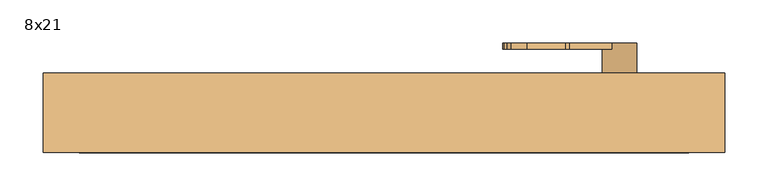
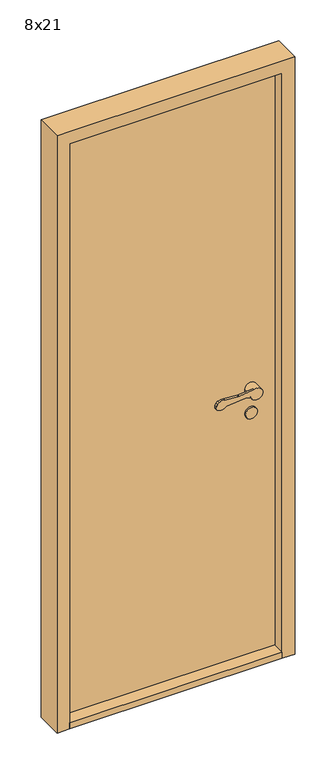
"""IFC4 building model written with IfcOpenShell, lengths in millimetres: door geometry, Innerdør Slett (Diplomat) : 8x21."""

from ifc_helpers import new_model, si_unit, point, frame, frame_2d, origin, origin_with_axes, place, context, project, spatial, polyline, circle_curve, trimmed, segment, composite_curve, outline, extrude, source, transform, mapped, element, save
from ifc_brep_helpers import plane_surface, cylinder_surface, revolved_surface, advanced_brep


def door_8x21_1535dc22(model_context):
    return source(origin(), model_context, "Body", "SolidModel", [
        advanced_brep(
        [(293.9611305, -20.0, 949.1175955), (308.3841161, -20.0, 942.6204086), (346.379633, -20.0, 951.3474568), (317.2687793, -20.0, 969.1517356), (268.6891233, -20.0, 964.26032), (263.6202158, -20.0, 964.1804415), (218.8963175, -20.0, 967.2639242), (200.3175669, -20.0, 964.8810513), (195.505009, -20.0, 959.9624074), (191.8691983, -20.0, 951.8913379), (196.721536, -20.0, 938.7393398), (226.0476109, -20.0, 943.6260011), (288.8520664, -20.0, 949.9496913), (268.6891233, -12.8915284, 964.26032), (317.2687793, -12.8915284, 969.1517356), (306.379633, -12.8915284, 951.3474568), (308.3841161, -12.8915284, 942.6204086), (293.9611305, -12.8915284, 949.1175955), (288.8520664, -12.8915284, 949.9496913), (226.0476109, -12.8915284, 943.6260011), (196.721536, -12.8915284, 938.7393398), (191.8691983, -12.8915284, 951.8913379), (195.505009, -12.8915284, 959.9624074), (200.3175669, -12.8915284, 964.8810513), (218.8963175, -12.8915284, 967.2639242), (263.6202158, -12.8915284, 964.1804415), (346.379633, 15.0, 951.3474568), (306.379633, 15.0, 951.3474568)],
        [
            (0, 1),
            (1, 2, circle_curve(frame((326.379633, -20.0, 951.3474568), z_axis=(0.0, -1.0, 0.0), x_axis=(-1.0, 0.0, 0.0)), 20.0)),
            (2, 3, circle_curve(frame((326.379633, -20.0, 951.3474568), z_axis=(0.0, -1.0, 0.0), x_axis=(-1.0, 0.0, 0.0)), 20.0)),
            (3, 4),
            (4, 5, circle_curve(frame((265.683663, -20.0, 994.1093938), z_axis=(0.0, 1.0, 0.0), x_axis=(-0.9949691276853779, 0.0, -0.10018200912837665)), 30.0)),
            (5, 6),
            (6, 7, circle_curve(frame((213.2326797, -20.0, 937.8033877), z_axis=(0.0, -1.0, 0.0), x_axis=(-0.9949691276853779, 0.0, -0.10018200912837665)), 30.0)),
            (7, 8, circle_curve(frame((204.6226045, -20.0, 955.8551634), z_axis=(0.0, -1.0, 0.0), x_axis=(-0.9949691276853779, 0.0, -0.10018200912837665)), 10.0)),
            (8, 9),
            (9, 10, circle_curve(frame((200.9867937, -20.0, 947.7840939), z_axis=(0.0, -1.0, 0.0), x_axis=(-0.9949691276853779, 0.0, -0.10018200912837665)), 10.0)),
            (10, 11, circle_curve(frame((207.8569644, -20.0, 962.352734), z_axis=(0.0, -1.0, 0.0), x_axis=(-0.9949691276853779, 0.0, -0.10018200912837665)), 26.1072815)),
            (11, 12),
            (12, 0, circle_curve(frame((289.8538865, -20.0, 940.0), z_axis=(0.0, 1.0, 0.0), x_axis=(-0.9949691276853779, 0.0, -0.10018200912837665)), 10.0)),
            (13, 14),
            (14, 15, circle_curve(frame((326.379633, -12.8915284, 951.3474568), z_axis=(0.0, -1.0, 0.0), x_axis=(-1.0, 0.0, 0.0)), 20.0)),
            (15, 16, circle_curve(frame((326.379633, -12.8915284, 951.3474568), z_axis=(0.0, -1.0, 0.0), x_axis=(-1.0, 0.0, 0.0)), 20.0)),
            (16, 17),
            (17, 18, circle_curve(frame((289.8538865, -12.8915284, 940.0), z_axis=(0.0, -1.0, 0.0), x_axis=(-0.9949691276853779, 0.0, -0.10018200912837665)), 10.0)),
            (18, 19),
            (19, 20, circle_curve(frame((207.8569644, -12.8915284, 962.352734), z_axis=(0.0, 1.0, 0.0), x_axis=(-0.9949691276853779, 0.0, -0.10018200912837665)), 26.1072815)),
            (20, 21, circle_curve(frame((200.9867937, -12.8915284, 947.7840939), z_axis=(0.0, 1.0, 0.0), x_axis=(-0.9949691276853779, 0.0, -0.10018200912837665)), 10.0)),
            (21, 22),
            (22, 23, circle_curve(frame((204.6226045, -12.8915284, 955.8551634), z_axis=(0.0, 1.0, 0.0), x_axis=(-0.9949691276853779, 0.0, -0.10018200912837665)), 10.0)),
            (23, 24, circle_curve(frame((213.2326797, -12.8915284, 937.8033877), z_axis=(0.0, 1.0, 0.0), x_axis=(-0.9949691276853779, 0.0, -0.10018200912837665)), 30.0)),
            (24, 25),
            (25, 13, circle_curve(frame((265.683663, -12.8915284, 994.1093938), z_axis=(0.0, -1.0, 0.0), x_axis=(-0.9949691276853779, 0.0, -0.10018200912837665)), 30.0)),
            (3, 14),
            (13, 4),
            (16, 1),
            (0, 17),
            (12, 18),
            (11, 19),
            (10, 20),
            (9, 21),
            (8, 22),
            (7, 23),
            (6, 24),
            (5, 25),
            (26, 27, circle_curve(frame((326.379633, 15.0, 951.3474568), z_axis=(0.0, 1.0, 0.0), x_axis=(-1.0, 0.0, 0.0)), 20.0)),
            (27, 26, circle_curve(frame((326.379633, 15.0, 951.3474568), z_axis=(0.0, 1.0, 0.0), x_axis=(-1.0, 0.0, 0.0)), 20.0)),
            (26, 2),
            (15, 27),
        ],
        [
            plane_surface(frame((317.6960588, -20.0, 969.1947577), z_axis=(0.0, -1.0000000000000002, 0.0), x_axis=(0.9949691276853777, 0.0, 0.10018200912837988))),
            plane_surface(frame((317.6960588, -12.8915284, 969.1947577), z_axis=(0.0, 1.0000000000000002, 0.0), x_axis=(-0.9949691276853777, 0.0, -0.10018200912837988))),
            plane_surface(frame((268.6891233, -20.0, 964.26032), z_axis=(-0.10018200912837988, 0.0, 0.9949691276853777), x_axis=(0.0, 1.0, 0.0))),
            plane_surface(frame((326.9687366, -20.0, 934.2485115), z_axis=(-0.41072439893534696, 0.0, -0.91175954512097), x_axis=(0.0, 1.0, 0.0))),
            revolved_surface(polyline([(279.9041952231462, -12.8915284, 938.9981799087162), (279.9041952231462, -20.0, 938.9981799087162)]), (289.8538865, -12.8915284, 940.0), (0.0, 1.0, 0.0)),
            plane_surface(frame((288.8520664, -20.0, 949.9496913), z_axis=(0.10018200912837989, 0.0, -0.9949691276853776), x_axis=(0.0, 1.0, 0.0))),
            cylinder_surface(frame((207.8569644, -12.8915284, 962.352734), z_axis=(0.0, -1.0, 0.0), x_axis=(-0.9949691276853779, 0.0, -0.10018200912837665)), 26.1072815),
            cylinder_surface(frame((200.9867937, -12.8915284, 947.7840939), z_axis=(0.0, -1.0, 0.0), x_axis=(-0.9949691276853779, 0.0, -0.10018200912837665)), 10.0),
            plane_surface(frame((191.8691983, -20.0, 951.8913379), z_axis=(-0.9117595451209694, 0.0, 0.41072439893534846), x_axis=(0.0, 1.0, 0.0))),
            cylinder_surface(frame((204.6226045, -12.8915284, 955.8551634), z_axis=(0.0, -1.0, 0.0), x_axis=(-0.9949691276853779, 0.0, -0.10018200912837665)), 10.0),
            cylinder_surface(frame((213.2326797, -12.8915284, 937.8033877), z_axis=(0.0, -1.0, 0.0), x_axis=(-0.9949691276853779, 0.0, -0.10018200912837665)), 30.0),
            plane_surface(frame((218.8963175, -20.0, 967.2639242), z_axis=(0.06878157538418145, 0.0, 0.9976317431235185), x_axis=(0.0, 1.0, 0.0))),
            revolved_surface(polyline([(235.8345891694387, -12.8915284, 991.1039335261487), (235.8345891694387, -20.0, 991.1039335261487)]), (265.683663, -12.8915284, 994.1093938), (0.0, 1.0, 0.0)),
            plane_surface(frame((306.379633, 15.0, 951.3474568), z_axis=(0.0, 1.0, 0.0), x_axis=(0.0, 0.0, -1.0))),
            cylinder_surface(frame((326.379633, 15.0, 951.3474568), z_axis=(0.0, -1.0, 0.0), x_axis=(-1.0, 0.0, 0.0)), 20.0),
        ],
        [
            (0, [[1, 2, 3, 4, 5, 6, 7, 8, 9, 10, 11, 12, 13]]),
            (1, [[14, 15, 16, 17, 18, 19, 20, 21, 22, 23, 24, 25, 26]]),
            (2, [[-4, 27, -14, 28]]),
            (3, [[-17, 29, -1, 30]]),
            (4, [[31, -18, -30, -13]]),
            (5, [[32, -19, -31, -12]]),
            (6, [[33, -20, -32, -11]]),
            (7, [[34, -21, -33, -10]]),
            (8, [[35, -22, -34, -9]]),
            (9, [[36, -23, -35, -8]]),
            (10, [[37, -24, -36, -7]]),
            (11, [[38, -25, -37, -6]]),
            (12, [[-28, -26, -38, -5]]),
            (13, [[39, 40]]),
            (14, [[41, -2, -29, -16, 42, -39]]),
            (14, [[-42, -15, -27, -3, -41, -40]]),
        ],
    ),
        extrude(outline(composite_curve([segment(trimmed(circle_curve(frame_2d((866.3474568, 326.379633)), 20.0), [point((866.3474568, 346.379633))], [point((866.3474568, 306.379633))], False, "CARTESIAN"), True, "CONTINUOUS"), segment(trimmed(circle_curve(frame_2d((866.3474568, 326.379633)), 20.0), [point((866.3474568, 306.379633))], [point((866.3474568, 346.379633))], False, "CARTESIAN"), True, "CONTINUOUS")], self_intersect=False)), frame((0.0, 10.0, 0.0), z_axis=(0.0, 1.0, 0.0), x_axis=(0.0, 0.0, 1.0)), (0.0, 0.0, 1.0), 5.0),
        advanced_brep(
        [(293.9611305, 100.0, 949.1175955), (288.8520664, 100.0, 949.9496913), (226.0476109, 100.0, 943.6260011), (196.721536, 100.0, 938.7393398), (191.8691983, 100.0, 951.8913379), (195.505009, 100.0, 959.9624074), (200.3175669, 100.0, 964.8810513), (218.8963175, 100.0, 967.2639242), (263.6202158, 100.0, 964.1804415), (268.6891233, 100.0, 964.26032), (317.2687793, 100.0, 969.1517356), (346.379633, 100.0, 951.3474568), (308.3841161, 100.0, 942.6204086), (268.6891233, 92.8915284, 964.26032), (263.6202158, 92.8915284, 964.1804415), (218.8963175, 92.8915284, 967.2639242), (200.3175669, 92.8915284, 964.8810513), (195.505009, 92.8915284, 959.9624074), (191.8691983, 92.8915284, 951.8913379), (196.721536, 92.8915284, 938.7393398), (226.0476109, 92.8915284, 943.6260011), (288.8520664, 92.8915284, 949.9496913), (293.9611305, 92.8915284, 949.1175955), (308.3841161, 92.8915284, 942.6204086), (306.379633, 92.8915284, 951.3474568), (317.2687793, 92.8915284, 969.1517356), (346.379633, 65.0, 951.3474568), (306.379633, 65.0, 951.3474568)],
        [
            (0, 1, circle_curve(frame((289.8538865, 100.0, 940.0), z_axis=(0.0, -1.0, 0.0), x_axis=(-0.9949691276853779, 0.0, -0.10018200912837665)), 10.0)),
            (1, 2),
            (2, 3, circle_curve(frame((207.8569644, 100.0, 962.352734), z_axis=(0.0, 1.0, 0.0), x_axis=(-0.9949691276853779, 0.0, -0.10018200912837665)), 26.1072815)),
            (3, 4, circle_curve(frame((200.9867937, 100.0, 947.7840939), z_axis=(0.0, 1.0, 0.0), x_axis=(-0.9949691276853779, 0.0, -0.10018200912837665)), 10.0)),
            (4, 5),
            (5, 6, circle_curve(frame((204.6226045, 100.0, 955.8551634), z_axis=(0.0, 1.0, 0.0), x_axis=(-0.9949691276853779, 0.0, -0.10018200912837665)), 10.0)),
            (6, 7, circle_curve(frame((213.2326797, 100.0, 937.8033877), z_axis=(0.0, 1.0, 0.0), x_axis=(-0.9949691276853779, 0.0, -0.10018200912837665)), 30.0)),
            (7, 8),
            (8, 9, circle_curve(frame((265.683663, 100.0, 994.1093938), z_axis=(0.0, -1.0, 0.0), x_axis=(-0.9949691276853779, 0.0, -0.10018200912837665)), 30.0)),
            (9, 10),
            (10, 11, circle_curve(frame((326.379633, 100.0, 951.3474568), z_axis=(0.0, 1.0, 0.0), x_axis=(-1.0, 0.0, 0.0)), 20.0)),
            (11, 12, circle_curve(frame((326.379633, 100.0, 951.3474568), z_axis=(0.0, 1.0, 0.0), x_axis=(-1.0, 0.0, 0.0)), 20.0)),
            (12, 0),
            (13, 14, circle_curve(frame((265.683663, 92.8915284, 994.1093938), z_axis=(0.0, 1.0, 0.0), x_axis=(-0.9949691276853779, 0.0, -0.10018200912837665)), 30.0)),
            (14, 15),
            (15, 16, circle_curve(frame((213.2326797, 92.8915284, 937.8033877), z_axis=(0.0, -1.0, 0.0), x_axis=(-0.9949691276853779, 0.0, -0.10018200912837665)), 30.0)),
            (16, 17, circle_curve(frame((204.6226045, 92.8915284, 955.8551634), z_axis=(0.0, -1.0, 0.0), x_axis=(-0.9949691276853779, 0.0, -0.10018200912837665)), 10.0)),
            (17, 18),
            (18, 19, circle_curve(frame((200.9867937, 92.8915284, 947.7840939), z_axis=(0.0, -1.0, 0.0), x_axis=(-0.9949691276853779, 0.0, -0.10018200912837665)), 10.0)),
            (19, 20, circle_curve(frame((207.8569644, 92.8915284, 962.352734), z_axis=(0.0, -1.0, 0.0), x_axis=(-0.9949691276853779, 0.0, -0.10018200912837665)), 26.1072815)),
            (20, 21),
            (21, 22, circle_curve(frame((289.8538865, 92.8915284, 940.0), z_axis=(0.0, 1.0, 0.0), x_axis=(-0.9949691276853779, 0.0, -0.10018200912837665)), 10.0)),
            (22, 23),
            (23, 24, circle_curve(frame((326.379633, 92.8915284, 951.3474568), z_axis=(0.0, 1.0, 0.0), x_axis=(-1.0, 0.0, 0.0)), 20.0)),
            (24, 25, circle_curve(frame((326.379633, 92.8915284, 951.3474568), z_axis=(0.0, 1.0, 0.0), x_axis=(-1.0, 0.0, 0.0)), 20.0)),
            (25, 13),
            (9, 13),
            (25, 10),
            (22, 0),
            (12, 23),
            (21, 1),
            (20, 2),
            (19, 3),
            (18, 4),
            (17, 5),
            (16, 6),
            (15, 7),
            (14, 8),
            (26, 27, circle_curve(frame((326.379633, 65.0, 951.3474568), z_axis=(0.0, -1.0, 0.0), x_axis=(-1.0, 0.0, 0.0)), 20.0)),
            (27, 26, circle_curve(frame((326.379633, 65.0, 951.3474568), z_axis=(0.0, -1.0, 0.0), x_axis=(-1.0, 0.0, 0.0)), 20.0)),
            (27, 24),
            (11, 26),
        ],
        [
            plane_surface(frame((317.6960588, 100.0, 969.1947577), z_axis=(0.0, 1.0000000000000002, 0.0), x_axis=(0.9949691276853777, 0.0, 0.10018200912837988))),
            plane_surface(frame((317.6960588, 92.8915284, 969.1947577), z_axis=(0.0, -1.0000000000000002, 0.0), x_axis=(-0.9949691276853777, 0.0, -0.10018200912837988))),
            plane_surface(frame((268.6891233, 100.0, 964.26032), z_axis=(-0.10018200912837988, 0.0, 0.9949691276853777), x_axis=(0.0, -1.0, 0.0))),
            plane_surface(frame((326.9687366, 100.0, 934.2485115), z_axis=(-0.41072439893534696, 0.0, -0.91175954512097), x_axis=(0.0, -1.0, 0.0))),
            revolved_surface(polyline([(279.9041952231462, 92.8915284, 938.9981799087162), (279.9041952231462, 100.0, 938.9981799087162)]), (289.8538865, 92.8915284, 940.0), (0.0, -1.0, 0.0)),
            plane_surface(frame((288.8520664, 100.0, 949.9496913), z_axis=(0.10018200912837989, 0.0, -0.9949691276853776), x_axis=(0.0, -1.0, 0.0))),
            cylinder_surface(frame((207.8569644, 92.8915284, 962.352734), z_axis=(0.0, 1.0, 0.0), x_axis=(-0.9949691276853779, 0.0, -0.10018200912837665)), 26.1072815),
            cylinder_surface(frame((200.9867937, 92.8915284, 947.7840939), z_axis=(0.0, 1.0, 0.0), x_axis=(-0.9949691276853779, 0.0, -0.10018200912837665)), 10.0),
            plane_surface(frame((191.8691983, 100.0, 951.8913379), z_axis=(-0.9117595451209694, 0.0, 0.41072439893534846), x_axis=(0.0, -1.0, 0.0))),
            cylinder_surface(frame((204.6226045, 92.8915284, 955.8551634), z_axis=(0.0, 1.0, 0.0), x_axis=(-0.9949691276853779, 0.0, -0.10018200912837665)), 10.0),
            cylinder_surface(frame((213.2326797, 92.8915284, 937.8033877), z_axis=(0.0, 1.0, 0.0), x_axis=(-0.9949691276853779, 0.0, -0.10018200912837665)), 30.0),
            plane_surface(frame((218.8963175, 100.0, 967.2639242), z_axis=(0.06878157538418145, 0.0, 0.9976317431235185), x_axis=(0.0, -1.0, 0.0))),
            revolved_surface(polyline([(235.8345891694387, 92.8915284, 991.1039335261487), (235.8345891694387, 100.0, 991.1039335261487)]), (265.683663, 92.8915284, 994.1093938), (0.0, -1.0, 0.0)),
            plane_surface(frame((306.379633, 65.0, 951.3474568), z_axis=(0.0, -1.0, 0.0), x_axis=(0.0, 0.0, -1.0))),
            cylinder_surface(frame((326.379633, 65.0, 951.3474568), z_axis=(0.0, 1.0, 0.0), x_axis=(-1.0, 0.0, 0.0)), 20.0),
        ],
        [
            (0, [[1, 2, 3, 4, 5, 6, 7, 8, 9, 10, 11, 12, 13]]),
            (1, [[14, 15, 16, 17, 18, 19, 20, 21, 22, 23, 24, 25, 26]]),
            (2, [[27, -26, 28, -10]]),
            (3, [[29, -13, 30, -23]]),
            (4, [[-1, -29, -22, 31]]),
            (5, [[-2, -31, -21, 32]]),
            (6, [[-3, -32, -20, 33]]),
            (7, [[-4, -33, -19, 34]]),
            (8, [[-5, -34, -18, 35]]),
            (9, [[-6, -35, -17, 36]]),
            (10, [[-7, -36, -16, 37]]),
            (11, [[-8, -37, -15, 38]]),
            (12, [[-9, -38, -14, -27]]),
            (13, [[39, 40]]),
            (14, [[-40, 41, -24, -30, -12, 42]]),
            (14, [[-39, -42, -11, -28, -25, -41]]),
        ],
    ),
        extrude(outline(composite_curve([segment(trimmed(circle_curve(frame_2d((866.3474568, 326.379633)), 20.0), [point((866.3474568, 346.379633))], [point((866.3474568, 306.379633))], False, "CARTESIAN"), True, "CONTINUOUS"), segment(trimmed(circle_curve(frame_2d((866.3474568, 326.379633)), 20.0), [point((866.3474568, 306.379633))], [point((866.3474568, 346.379633))], False, "CARTESIAN"), True, "CONTINUOUS")], self_intersect=False)), frame((0.0, 65.0, 0.0), z_axis=(0.0, 1.0, 0.0), x_axis=(0.0, 0.0, 1.0)), (0.0, 0.0, 1.0), 5.0),
        extrude(outline(polyline([(406.379633, -27.0), (-299.620367, -27.0), (-299.620367, 65.0), (406.379633, 65.0), (406.379633, -27.0)])), origin_with_axes(), (0.0, 0.0, 1.0), 22.0),
        extrude(outline(polyline([(406.379633, 15.0), (-299.620367, 15.0), (-299.620367, 65.0), (406.379633, 65.0), (406.379633, 15.0)])), frame((0.0, 0.0, 22.0), z_axis=(0.0, 0.0, 1.0), x_axis=(1.0, 0.0, 0.0)), (0.0, 0.0, 1.0), 2031.0),
        extrude(outline(polyline([(0.0, -341.620367), (0.0, -299.620367), (2053.0, -299.620367), (2053.0, 406.379633), (0.0, 406.379633), (0.0, 448.379633), (2095.0, 448.379633), (2095.0, -341.620367), (0.0, -341.620367)])), frame((0.0, -27.0, 0.0), z_axis=(0.0, 1.0, 0.0), x_axis=(0.0, 0.0, 1.0)), (0.0, 0.0, 1.0), 92.0),
    ])


if __name__ == "__main__":
    model = new_model("IFC4")
    model_context = context("Model", 3, world=origin())
    ifc_project = project(units=[si_unit("LENGTHUNIT", "METRE", prefix="MILLI")], contexts=[model_context])
    site = spatial("IfcSite", under=ifc_project)
    building = spatial("IfcBuilding", under=site)
    placement = place(None, origin())
    door_8x21_shape = door_8x21_1535dc22(model_context)
    element("IfcDoor", 1, ObjectType="Innerdør Slett (Diplomat) : 8x21", at=placement, inside=building, context=model_context, shape_type="MappedRepresentation", body=[
        mapped(door_8x21_shape, transform((0.0, 0.0, 0.0), x_axis=(1.0, 0.0, 0.0), y_axis=(0.0, 1.0, 0.0), z_axis=(0.0, 0.0, 1.0))),
    ])
    save(model, "model.ifc")
